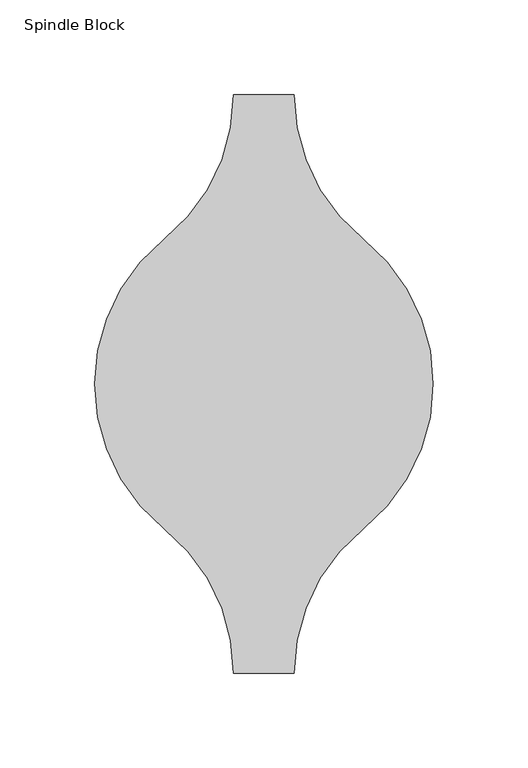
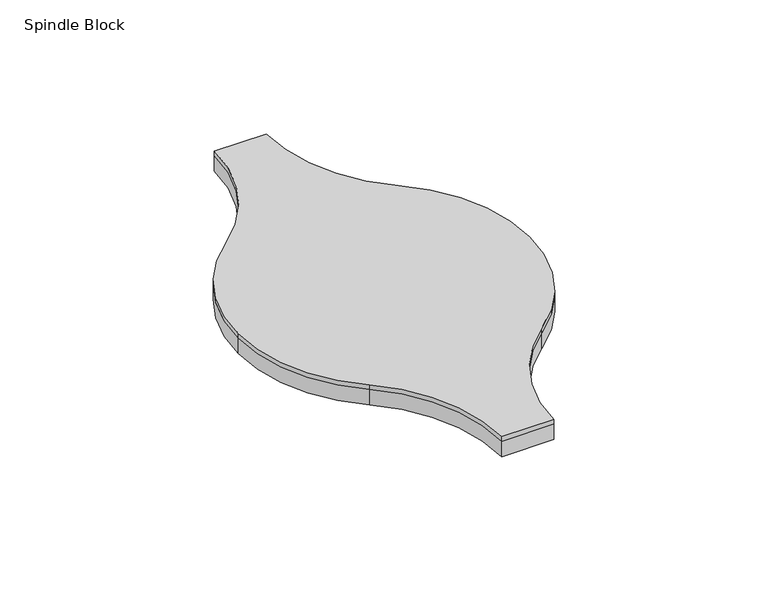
"""IFC4 building model written with IfcOpenShell, lengths in millimetres: proxy geometry, FilzFelt_Spindle_Block : Spindle Block."""

from ifc_helpers import new_model, si_unit, point, frame, frame_2d, origin, origin_with_axes, place, context, project, spatial, polyline, circle_curve, trimmed, segment, composite_curve, outline, extrude, source, transform, mapped, element, save


def spindle_block_0c82a0da(model_context):
    return source(origin(), model_context, "Body", "SweptSolid", [
        extrude(outline(composite_curve([segment(trimmed(circle_curve(frame_2d((113.4981354, 152.5)), 97.5776355), [point((15.9204999, 152.5))], [point((52.6102676, 76.25))], True, "CARTESIAN"), True, "CONTINUOUS"), segment(trimmed(circle_curve(frame_2d((-8.2776003, 0.0)), 97.5776355), [point((52.6102676, 76.25))], [point((89.3000352, 0.0))], False, "CARTESIAN"), True, "CONTINUOUS"), segment(trimmed(circle_curve(frame_2d((-8.2776003, 0.0)), 97.5776355), [point((89.3000352, 0.0))], [point((52.6102676, -76.25))], False, "CARTESIAN"), True, "CONTINUOUS"), segment(trimmed(circle_curve(frame_2d((113.4981354, -152.5)), 97.5776355), [point((52.6102676, -76.25))], [point((15.9204999, -152.5))], True, "CARTESIAN"), True, "CONTINUOUS"), segment(polyline([(15.9204999, -152.5), (-15.9204999, -152.5)]), True, "CONTINUOUS"), segment(trimmed(circle_curve(frame_2d((-113.4981354, -152.5)), 97.5776355), [point((-15.9204999, -152.5))], [point((-52.6102676, -76.25))], True, "CARTESIAN"), True, "CONTINUOUS"), segment(trimmed(circle_curve(frame_2d((8.2776003, 0.0)), 97.5776355), [point((-52.6102676, -76.25))], [point((-89.3000352, 0.0))], False, "CARTESIAN"), True, "CONTINUOUS"), segment(trimmed(circle_curve(frame_2d((8.2776003, 0.0)), 97.5776355), [point((-89.3000352, 0.0))], [point((-52.6102676, 76.25))], False, "CARTESIAN"), True, "CONTINUOUS"), segment(trimmed(circle_curve(frame_2d((-113.4981354, 152.5)), 97.5776355), [point((-52.6102676, 76.25))], [point((-15.9204999, 152.5))], True, "CARTESIAN"), True, "CONTINUOUS"), segment(polyline([(-15.9204999, 152.5), (15.9204999, 152.5)]), True, "CONTINUOUS")], self_intersect=False)), frame((0.0, 0.0, 10.0210937), z_axis=(0.0, 0.0, 1.0), x_axis=(1.0, 0.0, 0.0)), (0.0, 0.0, 1.0), 2.9765625),
        extrude(outline(composite_curve([segment(trimmed(circle_curve(frame_2d((113.4981354, 152.5)), 97.5776355), [point((15.9204999, 152.5))], [point((52.6102676, 76.25))], True, "CARTESIAN"), True, "CONTINUOUS"), segment(trimmed(circle_curve(frame_2d((-8.2776003, 0.0)), 97.5776355), [point((52.6102676, 76.25))], [point((89.3000352, 0.0))], False, "CARTESIAN"), True, "CONTINUOUS"), segment(trimmed(circle_curve(frame_2d((-8.2776003, 0.0)), 97.5776355), [point((89.3000352, 0.0))], [point((52.6102676, -76.25))], False, "CARTESIAN"), True, "CONTINUOUS"), segment(trimmed(circle_curve(frame_2d((113.4981354, -152.5)), 97.5776355), [point((52.6102676, -76.25))], [point((15.9204999, -152.5))], True, "CARTESIAN"), True, "CONTINUOUS"), segment(polyline([(15.9204999, -152.5), (-15.9204999, -152.5)]), True, "CONTINUOUS"), segment(trimmed(circle_curve(frame_2d((-113.4981354, -152.5)), 97.5776355), [point((-15.9204999, -152.5))], [point((-52.6102676, -76.25))], True, "CARTESIAN"), True, "CONTINUOUS"), segment(trimmed(circle_curve(frame_2d((8.2776003, 0.0)), 97.5776355), [point((-52.6102676, -76.25))], [point((-89.3000352, 0.0))], False, "CARTESIAN"), True, "CONTINUOUS"), segment(trimmed(circle_curve(frame_2d((8.2776003, 0.0)), 97.5776355), [point((-89.3000352, 0.0))], [point((-52.6102676, 76.25))], False, "CARTESIAN"), True, "CONTINUOUS"), segment(trimmed(circle_curve(frame_2d((-113.4981354, 152.5)), 97.5776355), [point((-52.6102676, 76.25))], [point((-15.9204999, 152.5))], True, "CARTESIAN"), True, "CONTINUOUS"), segment(polyline([(-15.9204999, 152.5), (15.9204999, 152.5)]), True, "CONTINUOUS")], self_intersect=False)), origin_with_axes(), (0.0, 0.0, 1.0), 10.0210938),
    ])


if __name__ == "__main__":
    model = new_model("IFC4")
    model_context = context("Model", 3, world=origin())
    ifc_project = project(units=[si_unit("LENGTHUNIT", "METRE", prefix="MILLI")], contexts=[model_context])
    site = spatial("IfcSite", under=ifc_project)
    building = spatial("IfcBuilding", under=site)
    placement = place(None, origin())
    spindle_block_shape = spindle_block_0c82a0da(model_context)
    element("IfcBuildingElementProxy", 1, Name="FilzFelt_Spindle_Block : Spindle Block", ObjectType="FilzFelt_Spindle_Block : Spindle Block", at=placement, inside=building, context=model_context, shape_type="MappedRepresentation", body=[
        mapped(spindle_block_shape, transform((0.0, 0.0, 0.0), x_axis=(1.0, 0.0, 0.0), y_axis=(0.0, 1.0, 0.0), z_axis=(0.0, 0.0, 1.0))),
    ])
    save(model, "model.ifc")
